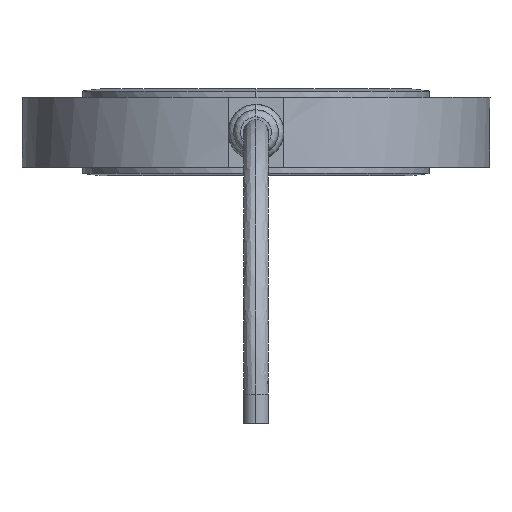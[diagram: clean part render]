
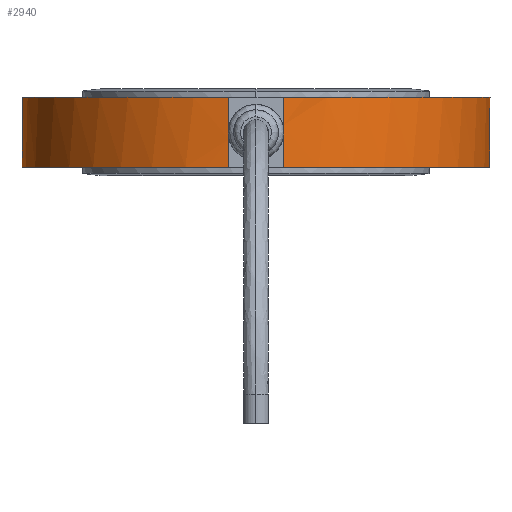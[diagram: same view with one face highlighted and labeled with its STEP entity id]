
A CAD part, front view. The second image highlights one B-rep face of the part: STEP entity #2940.
In plain terms, the highlighted free-form (B-spline) face has degree [11, 1] with [12, 2] control points.
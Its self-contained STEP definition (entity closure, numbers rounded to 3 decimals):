
#75 = CARTESIAN_POINT ( 'NONE',  ( -36.038, 26.853, 4.368 ) ) ;
#98 = CARTESIAN_POINT ( 'NONE',  ( 41.156, 2.223, 4.368 ) ) ;
#162 = CARTESIAN_POINT ( 'NONE',  ( 13.616, 43.638, 4.2 ) ) ;
#169 = VERTEX_POINT ( 'NONE', #3219 ) ;
#207 = CARTESIAN_POINT ( 'NONE',  ( -3.25, -27.962, -4.2 ) ) ;
#251 = EDGE_CURVE ( 'NONE', #2511, #1572, #3223, .T. ) ;
#254 = LINE ( 'NONE', #3276, #381 ) ;
#301 = CARTESIAN_POINT ( 'NONE',  ( 3.25, -27.962, -0.812 ) ) ;
#319 = EDGE_LOOP ( 'NONE', ( #2612, #2063, #3217, #1769, #1183, #3304, #2650, #410 ) ) ;
#346 = LINE ( 'NONE', #926, #3479 ) ;
#358 = CARTESIAN_POINT ( 'NONE',  ( -33.798, 27.348, 4.2 ) ) ;
#372 = CARTESIAN_POINT ( 'NONE',  ( -32.18, -17.975, -4.368 ) ) ;
#381 = VECTOR ( 'NONE', #1916, 1000. ) ;
#393 = CARTESIAN_POINT ( 'NONE',  ( -32.18, -17.975, 4.368 ) ) ;
#410 = ORIENTED_EDGE ( 'NONE', *, *, #251, .T. ) ;
#411 = CARTESIAN_POINT ( 'NONE',  ( 14.847, 45.207, 4.368 ) ) ;
#415 = CARTESIAN_POINT ( 'NONE',  ( 3.25, -27.962, 4.2 ) ) ;
#489 = VERTEX_POINT ( 'NONE', #2743 ) ;
#680 = CARTESIAN_POINT ( 'NONE',  ( -41.155, 2.245, -4.368 ) ) ;
#702 = CARTESIAN_POINT ( 'NONE',  ( 33.797, 27.392, 4.2 ) ) ;
#730 = FACE_OUTER_BOUND ( 'NONE', #319, .T. ) ;
#735 = B_SPLINE_CURVE_WITH_KNOTS ( 'NONE', 11,
 ( #1719, #2349, #3097, #2812, #358, #2029, #162, #702, #2277, #1448, #2542, #3115 ),
 .UNSPECIFIED., .F., .F.,
 ( 12, 12 ),
 ( 0., 0.17 ),
 .UNSPECIFIED. ) ;
#745 = CARTESIAN_POINT ( 'NONE',  ( 3.25, -27.962, -4.2 ) ) ;
#752 = CARTESIAN_POINT ( 'NONE',  ( 33.797, 27.392, -4.2 ) ) ;
#755 = CARTESIAN_POINT ( 'NONE',  ( 3.25, -27.962, 0. ) ) ;
#771 = LINE ( 'NONE', #755, #2844 ) ;
#781 = EDGE_CURVE ( 'NONE', #1287, #169, #254, .T. ) ;
#784 = CARTESIAN_POINT ( 'NONE',  ( -18.633, -26.173, -4.2 ) ) ;
#832 = VECTOR ( 'NONE', #1953, 1000. ) ;
#887 = EDGE_CURVE ( 'NONE', #1585, #2511, #3080, .T. ) ;
#890 = CARTESIAN_POINT ( 'NONE',  ( 36.036, 26.92, -4.368 ) ) ;
#909 = VERTEX_POINT ( 'NONE', #1393 ) ;
#926 = CARTESIAN_POINT ( 'NONE',  ( -3.25, -27.962, -4.2 ) ) ;
#1030 = CARTESIAN_POINT ( 'NONE',  ( 3.25, -27.962, 0. ) ) ;
#1061 = EDGE_CURVE ( 'NONE', #1251, #489, #771, .T. ) ;
#1178 = CARTESIAN_POINT ( 'NONE',  ( -16.144, -28.105, 4.368 ) ) ;
#1183 = ORIENTED_EDGE ( 'NONE', *, *, #1061, .T. ) ;
#1251 = VERTEX_POINT ( 'NONE', #415 ) ;
#1287 = VERTEX_POINT ( 'NONE', #2655 ) ;
#1300 = EDGE_CURVE ( 'NONE', #909, #1287, #2413, .T. ) ;
#1393 = CARTESIAN_POINT ( 'NONE',  ( -3.25, -27.962, -0.812 ) ) ;
#1448 = CARTESIAN_POINT ( 'NONE',  ( 32.935, -15.076, 4.2 ) ) ;
#1462 = CARTESIAN_POINT ( 'NONE',  ( 0.079, -28.15, -4.368 ) ) ;
#1464 = VECTOR ( 'NONE', #2703, 1000. ) ;
#1486 = CARTESIAN_POINT ( 'NONE',  ( -14.846, 45.314, 4.368 ) ) ;
#1498 = DIRECTION ( 'NONE',  ( 0., 0., 1. ) ) ;
#1520 = CARTESIAN_POINT ( 'NONE',  ( 16.144, -28.105, -4.368 ) ) ;
#1572 = VERTEX_POINT ( 'NONE', #3038 ) ;
#1574 = CARTESIAN_POINT ( 'NONE',  ( 32.935, -15.076, -4.2 ) ) ;
#1585 = VERTEX_POINT ( 'NONE', #301 ) ;
#1719 = CARTESIAN_POINT ( 'NONE',  ( -3.25, -27.962, 4.2 ) ) ;
#1769 = ORIENTED_EDGE ( 'NONE', *, *, #2704, .T. ) ;
#1772 = CARTESIAN_POINT ( 'NONE',  ( -36.038, 26.853, -4.368 ) ) ;
#1783 = DIRECTION ( 'NONE',  ( 0., 0., -1. ) ) ;
#1813 = CARTESIAN_POINT ( 'NONE',  ( -3.25, -27.962, -0.812 ) ) ;
#1830 = CARTESIAN_POINT ( 'NONE',  ( -39.894, 4.615, -4.2 ) ) ;
#1849 = DIRECTION ( 'NONE',  ( 0., 0., -1. ) ) ;
#1859 = CARTESIAN_POINT ( 'NONE',  ( 18.633, -26.174, -4.2 ) ) ;
#1916 = DIRECTION ( 'NONE',  ( 0., 0., 1. ) ) ;
#1923 = VECTOR ( 'NONE', #1783, 1000. ) ;
#1953 = DIRECTION ( 'NONE',  ( 0., 0., -1. ) ) ;
#1983 = CARTESIAN_POINT ( 'NONE',  ( 32.18, -17.975, -4.368 ) ) ;
#2003 = CARTESIAN_POINT ( 'NONE',  ( 14.847, 45.207, -4.368 ) ) ;
#2029 = CARTESIAN_POINT ( 'NONE',  ( -13.615, 43.712, 4.2 ) ) ;
#2063 = ORIENTED_EDGE ( 'NONE', *, *, #1300, .T. ) ;
#2248 = CARTESIAN_POINT ( 'NONE',  ( 41.156, 2.223, -4.368 ) ) ;
#2269 = CARTESIAN_POINT ( 'NONE',  ( 32.18, -17.975, 4.368 ) ) ;
#2277 = CARTESIAN_POINT ( 'NONE',  ( 39.894, 4.605, 4.2 ) ) ;
#2327 = CARTESIAN_POINT ( 'NONE',  ( -14.846, 45.314, -4.368 ) ) ;
#2349 = CARTESIAN_POINT ( 'NONE',  ( -18.633, -26.173, 4.2 ) ) ;
#2380 = CARTESIAN_POINT ( 'NONE',  ( 13.616, 43.638, -4.2 ) ) ;
#2413 = LINE ( 'NONE', #1813, #1464 ) ;
#2511 = VERTEX_POINT ( 'NONE', #745 ) ;
#2536 = CARTESIAN_POINT ( 'NONE',  ( -0.079, -28.15, -4.368 ) ) ;
#2542 = CARTESIAN_POINT ( 'NONE',  ( 18.633, -26.174, 4.2 ) ) ;
#2555 = CARTESIAN_POINT ( 'NONE',  ( 36.036, 26.92, 4.368 ) ) ;
#2576 = CARTESIAN_POINT ( 'NONE',  ( 0.079, -28.15, 4.368 ) ) ;
#2612 = ORIENTED_EDGE ( 'NONE', *, *, #3052, .T. ) ;
#2650 = ORIENTED_EDGE ( 'NONE', *, *, #887, .T. ) ;
#2655 = CARTESIAN_POINT ( 'NONE',  ( -3.25, -27.962, 0.812 ) ) ;
#2668 = CARTESIAN_POINT ( 'NONE',  ( -33.798, 27.348, -4.2 ) ) ;
#2703 = DIRECTION ( 'NONE',  ( 0., 0., 1. ) ) ;
#2704 = EDGE_CURVE ( 'NONE', #169, #1251, #735, .T. ) ;
#2743 = CARTESIAN_POINT ( 'NONE',  ( 3.25, -27.962, 0.812 ) ) ;
#2759 = CARTESIAN_POINT ( 'NONE',  ( 3.25, -27.962, 0. ) ) ;
#2812 = CARTESIAN_POINT ( 'NONE',  ( -39.894, 4.615, 4.2 ) ) ;
#2844 = VECTOR ( 'NONE', #1849, 1000. ) ;
#2848 = CARTESIAN_POINT ( 'NONE',  ( 16.144, -28.105, 4.368 ) ) ;
#2896 = LINE ( 'NONE', #1030, #1923 ) ;
#2940 = ADVANCED_FACE ( 'NONE', ( #730 ), #3073, .T. ) ;
#2950 = CARTESIAN_POINT ( 'NONE',  ( -13.615, 43.712, -4.2 ) ) ;
#3038 = CARTESIAN_POINT ( 'NONE',  ( -3.25, -27.962, -4.2 ) ) ;
#3052 = EDGE_CURVE ( 'NONE', #1572, #909, #346, .T. ) ;
#3073 = B_SPLINE_SURFACE_WITH_KNOTS ( 'NONE', 11, 1, ( 
 ( #3366, #2536 ),
 ( #1178, #3421 ),
 ( #393, #372 ),
 ( #3345, #680 ),
 ( #75, #1772 ),
 ( #1486, #2327 ),
 ( #411, #2003 ),
 ( #2555, #890 ),
 ( #98, #2248 ),
 ( #2269, #1983 ),
 ( #2848, #1520 ),
 ( #2576, #1462 ) ),
 .UNSPECIFIED., .F., .F., .F.,
 ( 12, 12 ),
 ( 2, 2 ),
 ( -3.139, 3.139 ),
 ( 0.252, 8.988 ),
 .UNSPECIFIED. ) ;
#3080 = LINE ( 'NONE', #2759, #832 ) ;
#3097 = CARTESIAN_POINT ( 'NONE',  ( -32.935, -15.073, 4.2 ) ) ;
#3115 = CARTESIAN_POINT ( 'NONE',  ( 3.25, -27.962, 4.2 ) ) ;
#3169 = EDGE_CURVE ( 'NONE', #489, #1585, #2896, .T. ) ;
#3188 = CARTESIAN_POINT ( 'NONE',  ( -32.935, -15.073, -4.2 ) ) ;
#3204 = CARTESIAN_POINT ( 'NONE',  ( 39.894, 4.605, -4.2 ) ) ;
#3217 = ORIENTED_EDGE ( 'NONE', *, *, #781, .T. ) ;
#3219 = CARTESIAN_POINT ( 'NONE',  ( -3.25, -27.962, 4.2 ) ) ;
#3223 = B_SPLINE_CURVE_WITH_KNOTS ( 'NONE', 11,
 ( #3492, #1859, #1574, #3204, #752, #2380, #2950, #2668, #1830, #3188, #784, #207 ),
 .UNSPECIFIED., .F., .F.,
 ( 12, 12 ),
 ( 0., 0.17 ),
 .UNSPECIFIED. ) ;
#3276 = CARTESIAN_POINT ( 'NONE',  ( -3.25, -27.962, 0.812 ) ) ;
#3304 = ORIENTED_EDGE ( 'NONE', *, *, #3169, .T. ) ;
#3345 = CARTESIAN_POINT ( 'NONE',  ( -41.155, 2.245, 4.368 ) ) ;
#3366 = CARTESIAN_POINT ( 'NONE',  ( -0.079, -28.15, 4.368 ) ) ;
#3421 = CARTESIAN_POINT ( 'NONE',  ( -16.144, -28.105, -4.368 ) ) ;
#3479 = VECTOR ( 'NONE', #1498, 1000. ) ;
#3492 = CARTESIAN_POINT ( 'NONE',  ( 3.25, -27.962, -4.2 ) ) ;
